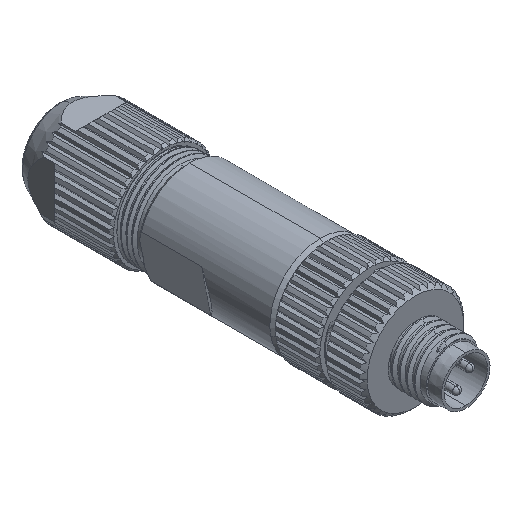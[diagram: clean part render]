
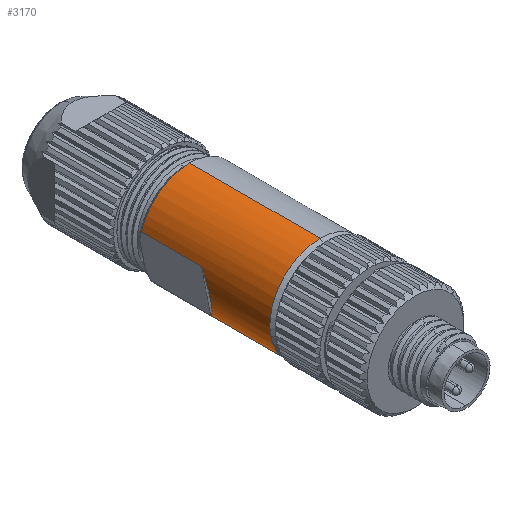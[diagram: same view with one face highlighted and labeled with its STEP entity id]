
A CAD part, isometric view. The second image highlights one B-rep face of the part: STEP entity #3170.
In plain terms, the highlighted cylindrical face has radius 6.7 mm (diameter 13.4 mm), a partial arc.
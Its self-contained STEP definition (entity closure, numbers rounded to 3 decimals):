
#167 = CYLINDRICAL_SURFACE ( 'NONE', #13783, 6.7 ) ;
#755 = EDGE_CURVE ( 'NONE', #20507, #43416, #44664, .T. ) ;
#790 = CARTESIAN_POINT ( 'NONE',  ( -0.008, 35.794, 19.307 ) ) ;
#1136 = CARTESIAN_POINT ( 'NONE',  ( 1.749, 35.794, 6.132 ) ) ;
#1487 = B_SPLINE_CURVE_WITH_KNOTS ( 'NONE', 3,
 ( #38235, #1136, #21898, #13373 ),
 .UNSPECIFIED., .F., .F.,
 ( 4, 4 ),
 ( 0.006, 0.006 ),
 .UNSPECIFIED. ) ;
#1669 = CARTESIAN_POINT ( 'NONE',  ( -2.783, 35.794, 17.78 ) ) ;
#2899 = CARTESIAN_POINT ( 'NONE',  ( 1.749, 39.494, 12.832 ) ) ;
#3170 = ADVANCED_FACE ( 'NONE', ( #50973 ), #167, .T. ) ;
#4502 = CARTESIAN_POINT ( 'NONE',  ( 1.395, 35.794, 19.532 ) ) ;
#4673 = CARTESIAN_POINT ( 'NONE',  ( 1.035, 35.794, 19.503 ) ) ;
#5020 = CARTESIAN_POINT ( 'NONE',  ( -4.549, 35.794, 15.146 ) ) ;
#5547 = CARTESIAN_POINT ( 'NONE',  ( -1.643, 35.794, 18.62 ) ) ;
#6290 = CARTESIAN_POINT ( 'NONE',  ( 0.045, 35.794, 6.347 ) ) ;
#6786 = CIRCLE ( 'NONE', #50856, 6.7 ) ;
#6965 = CARTESIAN_POINT ( 'NONE',  ( -4.655, 35.794, 14.803 ) ) ;
#8064 = EDGE_CURVE ( 'NONE', #10744, #27717, #52004, .T. ) ;
#8085 = LINE ( 'NONE', #37009, #20746 ) ;
#8871 = AXIS2_PLACEMENT_3D ( 'NONE', #49191, #44441, #16067 ) ;
#9635 = CARTESIAN_POINT ( 'NONE',  ( -2.512, 35.794, 18.014 ) ) ;
#10014 = CARTESIAN_POINT ( 'NONE',  ( -3.424, 35.794, 8.574 ) ) ;
#10199 = CARTESIAN_POINT ( 'NONE',  ( 1.749, 35.794, 6.132 ) ) ;
#10744 = VERTEX_POINT ( 'NONE', #37189 ) ;
#10910 = CARTESIAN_POINT ( 'NONE',  ( -4.824, 18.444, 11.534 ) ) ;
#11378 = VECTOR ( 'NONE', #34126, 1000. ) ;
#13230 = ORIENTED_EDGE ( 'NONE', *, *, #25778, .T. ) ;
#13373 = CARTESIAN_POINT ( 'NONE',  ( 1.749, 35.794, 6.132 ) ) ;
#13760 = CARTESIAN_POINT ( 'NONE',  ( -0.886, 35.794, 6.667 ) ) ;
#13783 = AXIS2_PLACEMENT_3D ( 'NONE', #2899, #15843, #43877 ) ;
#13935 = CARTESIAN_POINT ( 'NONE',  ( -0.194, 35.794, 6.415 ) ) ;
#15843 = DIRECTION ( 'NONE',  ( 0., -1., 0. ) ) ;
#16067 = DIRECTION ( 'NONE',  ( 0., 0., -1. ) ) ;
#16194 = DIRECTION ( 'NONE',  ( 0., 0., -1. ) ) ;
#16353 = DIRECTION ( 'NONE',  ( 0., 1., 0. ) ) ;
#16951 = CARTESIAN_POINT ( 'NONE',  ( 0.335, 35.794, 19.39 ) ) ;
#16962 = VERTEX_POINT ( 'NONE', #10910 ) ;
#17308 = CARTESIAN_POINT ( 'NONE',  ( -0.68, 35.794, 19.086 ) ) ;
#17429 = EDGE_CURVE ( 'NONE', #34720, #23465, #34767, .T. ) ;
#17622 = EDGE_CURVE ( 'NONE', #16962, #23465, #6786, .T. ) ;
#18212 = CARTESIAN_POINT ( 'NONE',  ( -1.967, 35.794, 7.251 ) ) ;
#18333 = CARTESIAN_POINT ( 'NONE',  ( 1.749, 39.494, 19.532 ) ) ;
#18565 = CARTESIAN_POINT ( 'NONE',  ( -2.172, 35.794, 7.393 ) ) ;
#19916 = DIRECTION ( 'NONE',  ( 0., -1., 0. ) ) ;
#19967 = VERTEX_POINT ( 'NONE', #47893 ) ;
#20019 = CARTESIAN_POINT ( 'NONE',  ( -5.331, 25.907, 12.606 ) ) ;
#20084 = EDGE_CURVE ( 'NONE', #43416, #10744, #48009, .T. ) ;
#20507 = VERTEX_POINT ( 'NONE', #6965 ) ;
#20746 = VECTOR ( 'NONE', #40375, 1000. ) ;
#21216 = CARTESIAN_POINT ( 'NONE',  ( -3.509, 35.794, 17. ) ) ;
#21297 = EDGE_CURVE ( 'NONE', #34720, #20507, #30297, .T. ) ;
#21372 = CARTESIAN_POINT ( 'NONE',  ( -4.655, 35.794, 14.803 ) ) ;
#21840 = ORIENTED_EDGE ( 'NONE', *, *, #17622, .T. ) ;
#21898 = CARTESIAN_POINT ( 'NONE',  ( 1.749, 35.794, 6.132 ) ) ;
#22007 = ORIENTED_EDGE ( 'NONE', *, *, #21297, .T. ) ;
#22631 = CARTESIAN_POINT ( 'NONE',  ( -1.33, 35.794, 6.876 ) ) ;
#22819 = ORIENTED_EDGE ( 'NONE', *, *, #755, .T. ) ;
#23090 = VECTOR ( 'NONE', #19916, 1000. ) ;
#23465 = VERTEX_POINT ( 'NONE', #33836 ) ;
#24065 = CARTESIAN_POINT ( 'NONE',  ( -4.886, 25.907, 10.349 ) ) ;
#24166 = CARTESIAN_POINT ( 'NONE',  ( 1.749, 18.444, 12.832 ) ) ;
#24925 = CARTESIAN_POINT ( 'NONE',  ( 1.749, 35.794, 19.532 ) ) ;
#25237 = ORIENTED_EDGE ( 'NONE', *, *, #20084, .T. ) ;
#25778 = EDGE_CURVE ( 'NONE', #45782, #51557, #1487, .T. ) ;
#26314 = ORIENTED_EDGE ( 'NONE', *, *, #28060, .T. ) ;
#27717 = VERTEX_POINT ( 'NONE', #32775 ) ;
#27965 = CARTESIAN_POINT ( 'NONE',  ( -4.655, 27.794, 14.803 ) ) ;
#28060 = EDGE_CURVE ( 'NONE', #27717, #45782, #35554, .T. ) ;
#28697 = CIRCLE ( 'NONE', #8871, 6.7 ) ;
#28987 = ORIENTED_EDGE ( 'NONE', *, *, #8064, .T. ) ;
#30297 = B_SPLINE_CURVE_WITH_KNOTS ( 'NONE', 3,
 ( #24925, #4502, #4673, #16951, #790, #17308, #37375, #5547, #45497, #9635, #1669, #33445, #21216, #42125, #41769, #33276, #5020, #21372 ),
 .UNSPECIFIED., .F., .F.,
 ( 4, 2, 2, 2, 2, 2, 2, 2, 4 ),
 ( 0.006, 0.007, 0.008, 0.009, 0.01, 0.011, 0.012, 0.013, 0.014 ),
 .UNSPECIFIED. ) ;
#30617 = CARTESIAN_POINT ( 'NONE',  ( -1.546, 35.794, 6.992 ) ) ;
#31465 = CARTESIAN_POINT ( 'NONE',  ( -4.655, 27.794, 14.803 ) ) ;
#32775 = CARTESIAN_POINT ( 'NONE',  ( -3.424, 35.794, 8.574 ) ) ;
#33276 = CARTESIAN_POINT ( 'NONE',  ( -4.417, 35.794, 15.477 ) ) ;
#33445 = CARTESIAN_POINT ( 'NONE',  ( -3.282, 35.794, 17.271 ) ) ;
#33836 = CARTESIAN_POINT ( 'NONE',  ( 1.749, 18.444, 19.532 ) ) ;
#34126 = DIRECTION ( 'NONE',  ( 0., 1., 0. ) ) ;
#34179 = CARTESIAN_POINT ( 'NONE',  ( -3.108, 35.794, 8.19 ) ) ;
#34360 = CARTESIAN_POINT ( 'NONE',  ( -0.659, 35.794, 6.574 ) ) ;
#34720 = VERTEX_POINT ( 'NONE', #47548 ) ;
#34767 = LINE ( 'NONE', #18333, #51242 ) ;
#35554 = B_SPLINE_CURVE_WITH_KNOTS ( 'NONE', 3,
 ( #10014, #34179, #38273, #18565, #18212, #30617, #22631, #13760, #34360, #13935, #6290, #42324, #46413, #10199 ),
 .UNSPECIFIED., .F., .F.,
 ( 4, 2, 2, 2, 2, 2, 4 ),
 ( 0., 0.001, 0.002, 0.003, 0.004, 0.004, 0.006 ),
 .UNSPECIFIED. ) ;
#37009 = CARTESIAN_POINT ( 'NONE',  ( 1.749, 39.494, 6.132 ) ) ;
#37189 = CARTESIAN_POINT ( 'NONE',  ( -3.424, 27.794, 8.574 ) ) ;
#37375 = CARTESIAN_POINT ( 'NONE',  ( -1.012, 35.794, 18.947 ) ) ;
#38235 = CARTESIAN_POINT ( 'NONE',  ( 1.749, 35.794, 6.132 ) ) ;
#38273 = CARTESIAN_POINT ( 'NONE',  ( -2.756, 35.794, 7.847 ) ) ;
#40274 = ORIENTED_EDGE ( 'NONE', *, *, #17429, .F. ) ;
#40375 = DIRECTION ( 'NONE',  ( 0., -1., 0. ) ) ;
#41769 = CARTESIAN_POINT ( 'NONE',  ( -4.1, 35.794, 16.119 ) ) ;
#41858 = EDGE_CURVE ( 'NONE', #19967, #16962, #28697, .T. ) ;
#41887 = EDGE_CURVE ( 'NONE', #51557, #19967, #8085, .T. ) ;
#42125 = CARTESIAN_POINT ( 'NONE',  ( -3.918, 35.794, 16.424 ) ) ;
#42324 = CARTESIAN_POINT ( 'NONE',  ( 0.77, 35.794, 6.185 ) ) ;
#42432 = CARTESIAN_POINT ( 'NONE',  ( -3.424, 39.494, 8.574 ) ) ;
#43416 = VERTEX_POINT ( 'NONE', #31465 ) ;
#43877 = DIRECTION ( 'NONE',  ( 0., 0., -1. ) ) ;
#44441 = DIRECTION ( 'NONE',  ( 0., 1., 0. ) ) ;
#44664 = LINE ( 'NONE', #52352, #23090 ) ;
#44675 = CARTESIAN_POINT ( 'NONE',  ( 1.749, 35.794, 6.132 ) ) ;
#45497 = CARTESIAN_POINT ( 'NONE',  ( -1.943, 35.794, 18.434 ) ) ;
#45782 = VERTEX_POINT ( 'NONE', #47273 ) ;
#46413 = CARTESIAN_POINT ( 'NONE',  ( 1.257, 35.794, 6.132 ) ) ;
#47177 = EDGE_LOOP ( 'NONE', ( #40274, #22007, #22819, #25237, #28987, #26314, #13230, #49801, #47363, #21840 ) ) ;
#47273 = CARTESIAN_POINT ( 'NONE',  ( 1.749, 35.794, 6.132 ) ) ;
#47363 = ORIENTED_EDGE ( 'NONE', *, *, #41858, .T. ) ;
#47548 = CARTESIAN_POINT ( 'NONE',  ( 1.749, 35.794, 19.532 ) ) ;
#47893 = CARTESIAN_POINT ( 'NONE',  ( 1.749, 18.444, 6.132 ) ) ;
#48009 =( BOUNDED_CURVE ( )  B_SPLINE_CURVE ( 3, ( #27965, #20019, #24065, #52444 ),
 .UNSPECIFIED., .F., .F. ) 
 B_SPLINE_CURVE_WITH_KNOTS ( ( 4, 4 ),
 ( 5.79, 6.777 ),
 .UNSPECIFIED. ) 
 CURVE ( )  GEOMETRIC_REPRESENTATION_ITEM ( )  RATIONAL_B_SPLINE_CURVE ( ( 1., 0.92, 0.92, 1. ) ) 
 REPRESENTATION_ITEM ( '' )  );
#49191 = CARTESIAN_POINT ( 'NONE',  ( 1.749, 18.444, 12.832 ) ) ;
#49801 = ORIENTED_EDGE ( 'NONE', *, *, #41887, .T. ) ;
#50785 = DIRECTION ( 'NONE',  ( 0., -1., 0. ) ) ;
#50856 = AXIS2_PLACEMENT_3D ( 'NONE', #24166, #16353, #16194 ) ;
#50973 = FACE_OUTER_BOUND ( 'NONE', #47177, .T. ) ;
#51242 = VECTOR ( 'NONE', #50785, 1000. ) ;
#51557 = VERTEX_POINT ( 'NONE', #44675 ) ;
#52004 = LINE ( 'NONE', #42432, #11378 ) ;
#52352 = CARTESIAN_POINT ( 'NONE',  ( -4.655, 35.794, 14.803 ) ) ;
#52444 = CARTESIAN_POINT ( 'NONE',  ( -3.424, 27.794, 8.574 ) ) ;
